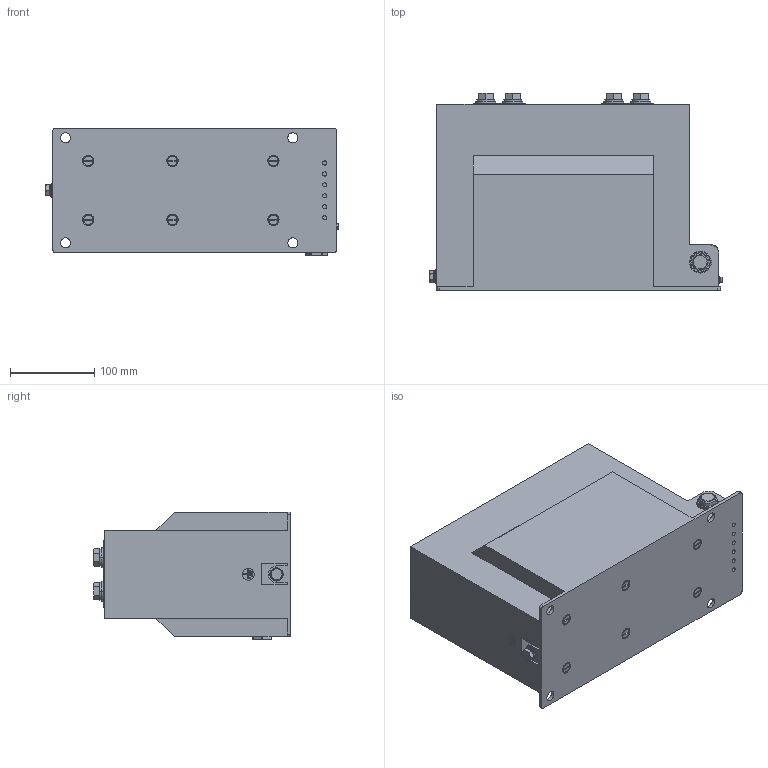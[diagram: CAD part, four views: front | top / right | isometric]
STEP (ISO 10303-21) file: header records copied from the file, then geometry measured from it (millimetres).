
FILE_DESCRIPTION (( 'STEP AP203' ), '1' );
FILE_NAME ('CTS_12_S_1750A.STEP', '2014-07-07T06:22:01', ( '' ), ( '' ), 'SwSTEP 2.0', 'SolidWorks 2014', '' );
FILE_SCHEMA (( 'CONFIG_CONTROL_DESIGN' ));
Length unit declared in the file: millimetre
Products named in the file (1): CTS_12_S_1750A
Bounding box: 347.5 x 234.1 x 151.9 mm (x, y, z)
Volume: 8391418.6 mm3; surface area: 339607 mm2
Topology: 1 solids, 7 shells, 1032 faces, 2533 edges, 1557 vertices
Faces by surface type: plane 465, cylinder 355, cone 88, torus 65, bspline 38, sphere 21
Entity records: 37100 total; most frequent: CARTESIAN_POINT 12711, DIRECTION 5212, ORIENTED_EDGE 4994, EDGE_CURVE 2497, AXIS2_PLACEMENT_3D 2005, VERTEX_POINT 1549, LINE 1202, VECTOR 1202
